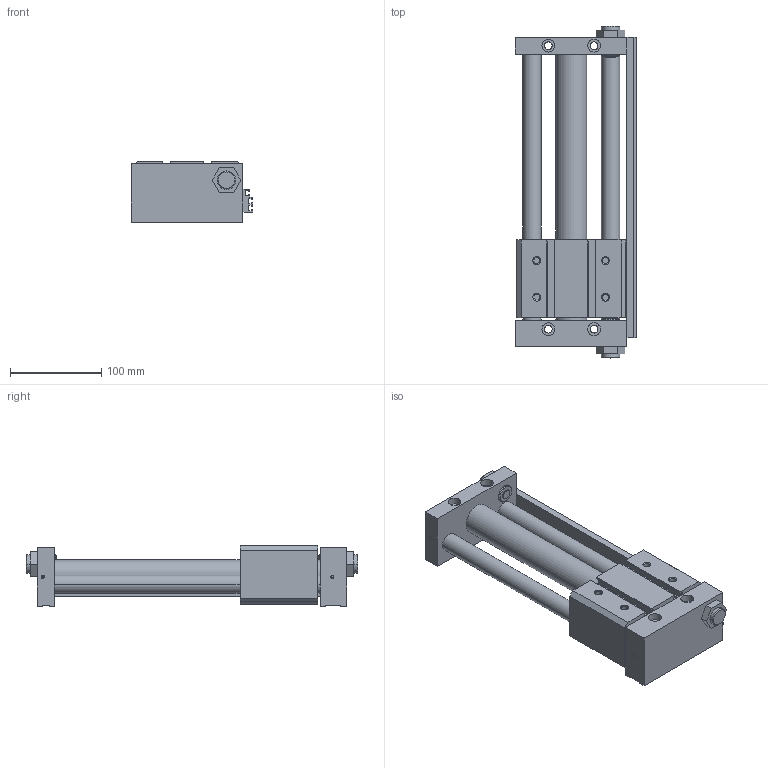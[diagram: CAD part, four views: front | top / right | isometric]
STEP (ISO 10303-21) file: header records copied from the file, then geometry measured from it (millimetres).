
FILE_DESCRIPTION((''),'2;1');
FILE_NAME('C:\Documents and Settings\Administrator\桌面\GYS\GYS32\GYSR32X200.stp','2012-03-06T20:18:44',('Administrator'),(''),'Autodesk Inventor 8','Autodesk Inventor 8','');
FILE_SCHEMA(('AUTOMOTIVE_DESIGN { 1 0 10303 214 1 1 1 1 }'));
Length unit declared in the file: millimetre
Products named in the file (3): GYSR32X200; GYS32X200; GYS32160X200
Assembly tree (2 placements, depth 2):
  GYSR32X200
    GYS32X200
    GYS32160X200
Bounding box: 132.5 x 363 x 66 mm (x, y, z)
Volume: 1318682.9 mm3; surface area: 190329.1 mm2
Topology: 2 solids, 2 shells, 291 faces, 770 edges, 504 vertices
Faces by surface type: plane 161, cylinder 96, cone 28, bspline 6
Entity records: 9200 total; most frequent: CARTESIAN_POINT 1644, DIRECTION 1598, ORIENTED_EDGE 1540, EDGE_CURVE 770, AXIS2_PLACEMENT_3D 538, VECTOR 522, LINE 522, VERTEX_POINT 504
